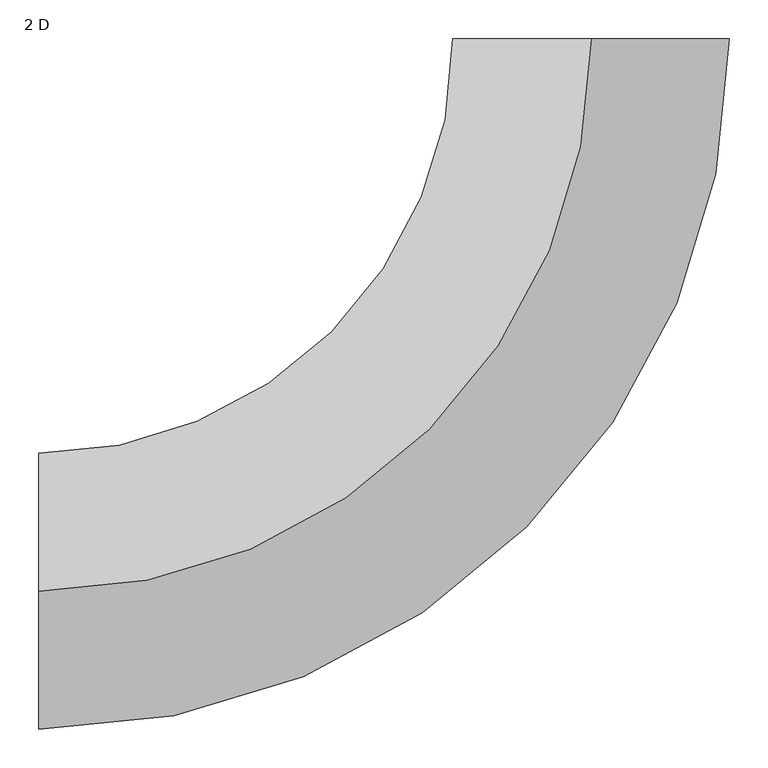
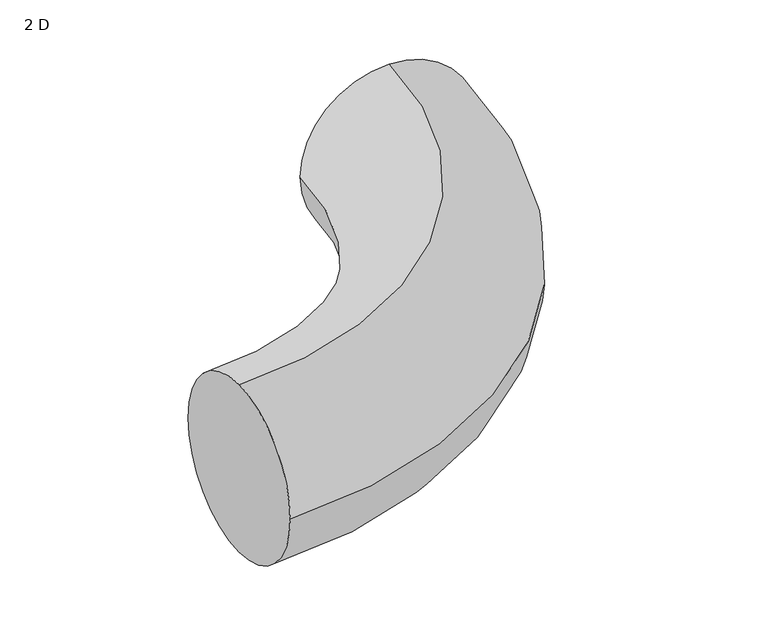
"""IFC4 building model written with IfcOpenShell, lengths in millimetres: duct fitting geometry, M_Cotovelo redondo : 2 D."""

from ifc_helpers import new_model, si_unit, point, frame, origin, place, context, project, spatial, circle_curve, ellipse_curve, trimmed, source, transform, mapped, element, save
from ifc_brep_helpers import plane_surface, revolved_surface, advanced_brep


def duct_fitting_2_d_8456317d(model_context):
    return source(origin(), model_context, "Body", "AdvancedBrep", [
        advanced_brep(
        [(-710.0, 0.0, 177.5), (-710.0, 177.5, 0.0), (-710.0, 0.0, -177.5), (-710.0, -177.5, 0.0), (0.0, 710.0, 177.5), (177.5, 710.0, 0.0), (0.0, 710.0, -177.5), (-177.5, 710.0, 0.0)],
        [
            (0, 1, circle_curve(frame((-710.0, 0.0, 0.0), z_axis=(-1.0, 0.0, 0.0), x_axis=(0.0, 1.0, 0.0)), 177.5)),
            (1, 2, circle_curve(frame((-710.0, 0.0, 0.0), z_axis=(-1.0, 0.0, 0.0), x_axis=(0.0, 1.0, 0.0)), 177.5)),
            (2, 3, circle_curve(frame((-710.0, 0.0, 0.0), z_axis=(-1.0, 0.0, 0.0), x_axis=(0.0, 1.0, 0.0)), 177.5)),
            (3, 0, circle_curve(frame((-710.0, 0.0, 0.0), z_axis=(-1.0, 0.0, 0.0), x_axis=(0.0, 1.0, 0.0)), 177.5)),
            (4, 5, circle_curve(frame((0.0, 710.0, 0.0), z_axis=(0.0, 1.0, 0.0), x_axis=(-1.0, 0.0, 0.0)), 177.5)),
            (5, 6, circle_curve(frame((0.0, 710.0, 0.0), z_axis=(0.0, 1.0, 0.0), x_axis=(-1.0, 0.0, 0.0)), 177.5)),
            (6, 7, circle_curve(frame((0.0, 710.0, 0.0), z_axis=(0.0, 1.0, 0.0), x_axis=(-1.0, 0.0, 0.0)), 177.5)),
            (7, 4, circle_curve(frame((0.0, 710.0, 0.0), z_axis=(0.0, 1.0, 0.0), x_axis=(-1.0, 0.0, 0.0)), 177.5)),
            (7, 1, circle_curve(frame((-710.0, 710.0, 0.0), z_axis=(0.0, 0.0, -1.0), x_axis=(0.0, -1.0, 0.0)), 532.5)),
            (0, 4, circle_curve(frame((-710.0, 710.0, 177.5), z_axis=(0.0, 0.0, 1.0), x_axis=(0.0, -1.0, 0.0)), 710.0)),
            (6, 2, circle_curve(frame((-710.0, 710.0, -177.5), z_axis=(0.0, 0.0, -1.0), x_axis=(0.0, -1.0, 0.0)), 710.0)),
            (5, 3, circle_curve(frame((-710.0, 710.0, 0.0), z_axis=(0.0, 0.0, -1.0), x_axis=(0.0, -1.0, 0.0)), 887.5)),
        ],
        [
            plane_surface(frame((-710.0, 0.0, 0.0), z_axis=(-1.0, 0.0, 0.0), x_axis=(0.0, 0.0, 1.0))),
            plane_surface(frame((0.0, 710.0, 0.0), z_axis=(0.0, 1.0, 0.0), x_axis=(0.0, 0.0, 1.0))),
            revolved_surface(trimmed(ellipse_curve(frame((-710.0, 0.0, 0.0), z_axis=(-1.0, 0.0, 0.0), x_axis=(0.0, 1.0, 0.0)), 177.5, 177.5), [point((-710.0, 0.0, 177.5))], [point((-710.0, 177.5, 0.0))], True, "CARTESIAN"), (-710.0, 710.0, 0.0), (0.0, 0.0, 1.0)),
            revolved_surface(trimmed(ellipse_curve(frame((-710.0, 0.0, 0.0), z_axis=(-1.0, 0.0, 0.0), x_axis=(0.0, 1.0, 0.0)), 177.5, 177.5), [point((-710.0, 177.5, 0.0))], [point((-710.0, 0.0, -177.5))], True, "CARTESIAN"), (-710.0, 710.0, 0.0), (0.0, 0.0, 1.0)),
            revolved_surface(trimmed(ellipse_curve(frame((-710.0, 0.0, 0.0), z_axis=(-1.0, 0.0, 0.0), x_axis=(0.0, 1.0, 0.0)), 177.5, 177.5), [point((-710.0, 0.0, -177.5))], [point((-710.0, -177.5, 0.0))], True, "CARTESIAN"), (-710.0, 710.0, 0.0), (0.0, 0.0, 1.0)),
            revolved_surface(trimmed(ellipse_curve(frame((-710.0, 0.0, 0.0), z_axis=(-1.0, 0.0, 0.0), x_axis=(0.0, 1.0, 0.0)), 177.5, 177.5), [point((-710.0, -177.5, 0.0))], [point((-710.0, 0.0, 177.5))], True, "CARTESIAN"), (-710.0, 710.0, 0.0), (0.0, 0.0, 1.0)),
        ],
        [
            (0, [[1, 2, 3, 4]]),
            (1, [[5, 6, 7, 8]]),
            (2, [[9, -1, 10, -8]]),
            (3, [[11, -2, -9, -7]]),
            (4, [[12, -3, -11, -6]]),
            (5, [[-10, -4, -12, -5]]),
        ],
    ),
    ])


if __name__ == "__main__":
    model = new_model("IFC4")
    model_context = context("Model", 3, world=origin())
    ifc_project = project(units=[si_unit("LENGTHUNIT", "METRE", prefix="MILLI")], contexts=[model_context])
    site = spatial("IfcSite", under=ifc_project)
    building = spatial("IfcBuilding", under=site)
    placement = place(None, origin())
    duct_fitting_2_d_shape = duct_fitting_2_d_8456317d(model_context)
    element("IfcDuctFitting", 1, ObjectType="M_Cotovelo redondo : 2 D", at=placement, inside=building, context=model_context, shape_type="MappedRepresentation", body=[
        mapped(duct_fitting_2_d_shape, transform((0.0, 0.0, 0.0), x_axis=(1.0, 0.0, 0.0), y_axis=(0.0, 1.0, 0.0), z_axis=(0.0, 0.0, 1.0))),
    ])
    save(model, "model.ifc")
